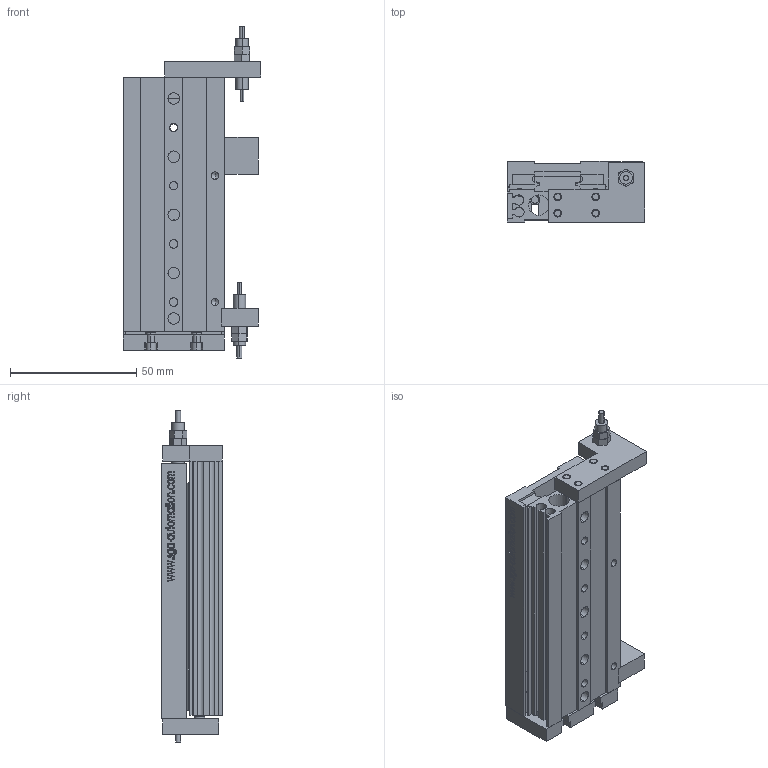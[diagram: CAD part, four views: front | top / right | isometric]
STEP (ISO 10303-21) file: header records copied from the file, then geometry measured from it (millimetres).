
FILE_DESCRIPTION (( 'STEP AP203' ), '1' );
FILE_NAME ('GDX 8-50.STEP', '2013-02-22T09:12:49', ( 'Conseil Régional Haute-Normandie' ), ( 'Conseil Régional Haute-Normandie' ), 'SwSTEP 2.0', 'SolidWorks 2010', '' );
FILE_SCHEMA (( 'CONFIG_CONTROL_DESIGN' ));
Length unit declared in the file: millimetre
Products named in the file (14): Pièce 10 GDX 8-50_Default; Pièce3 GDX 8-10_Default; Pièce2 GDX 8-10_Default; Pièce4 GDX 8-10_Default; Pièce9 GDX 8-10_Default; GDX 8-50; Pièce11 GDX 8-50_Default; Pièce13 GDX 8-50_Default; Pièce 12 GDX 8-50_Default; Pièce1 GDX 8-10_Default; Pièce5 GDX 8-10_Default; Pièce7 GDX 8-10_Default; Pièce8 GDX 8-10_Default; Pièce6 GDX 8-10_Default
Assembly tree (27 placements, depth 2):
  GDX 8-50
    Pièce6 GDX 8-10_Default  x8
    Pièce9 GDX 8-10_Default  x2
    Pièce3 GDX 8-10_Default
    Pièce4 GDX 8-10_Default  x2
    Pièce 10 GDX 8-50_Default
    Pièce8 GDX 8-10_Default  x2
    Pièce 12 GDX 8-50_Default
    Pièce2 GDX 8-10_Default
    Pièce5 GDX 8-10_Default  x4
    Pièce13 GDX 8-50_Default  x2
    Pièce11 GDX 8-50_Default
    Pièce1 GDX 8-10_Default
    Pièce7 GDX 8-10_Default
Bounding box: 54.5 x 24 x 131.29 mm (x, y, z)
Volume: 77880.3 mm3; surface area: 53759.4 mm2
Topology: 27 solids, 27 shells, 748 faces, 1902 edges, 1244 vertices
Faces by surface type: plane 381, cylinder 206, bspline 133, cone 28
Entity records: 31118 total; most frequent: CARTESIAN_POINT 14262, ORIENTED_EDGE 3256, DIRECTION 2706, EDGE_CURVE 1628, VERTEX_POINT 1080, VECTOR 1062, LINE 1062, AXIS2_PLACEMENT_3D 822
